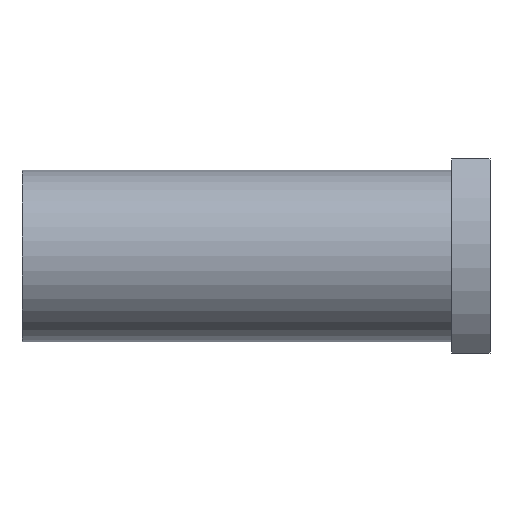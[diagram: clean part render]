
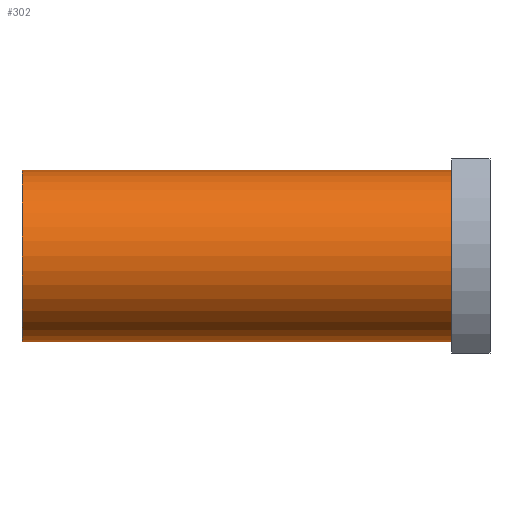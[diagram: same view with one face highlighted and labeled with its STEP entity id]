
A CAD part, front view. The second image highlights one B-rep face of the part: STEP entity #302.
In plain terms, the highlighted cylindrical face has radius 22.5 mm (diameter 45 mm), a full revolution.
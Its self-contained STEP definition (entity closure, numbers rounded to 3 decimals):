
#37=CYLINDRICAL_SURFACE('',#346,22.5);
#60=ORIENTED_EDGE('',*,*,#124,.T.);
#61=ORIENTED_EDGE('',*,*,#125,.F.);
#124=EDGE_CURVE('',#156,#156,#182,.T.);
#125=EDGE_CURVE('',#157,#157,#183,.T.);
#156=VERTEX_POINT('',#508);
#157=VERTEX_POINT('',#510);
#182=CIRCLE('',#347,22.5);
#183=CIRCLE('',#348,22.5);
#205=EDGE_LOOP('',(#60));
#206=EDGE_LOOP('',(#61));
#251=FACE_BOUND('',#205,.T.);
#252=FACE_BOUND('',#206,.T.);
#302=ADVANCED_FACE('',(#251,#252),#37,.T.);
#346=AXIS2_PLACEMENT_3D('',#506,#410,#411);
#347=AXIS2_PLACEMENT_3D('',#507,#412,#413);
#348=AXIS2_PLACEMENT_3D('',#509,#414,#415);
#410=DIRECTION('',(-1.,0.,0.));
#411=DIRECTION('',(0.,0.,1.));
#412=DIRECTION('',(1.,0.,0.));
#413=DIRECTION('',(0.,0.,-1.));
#414=DIRECTION('',(1.,0.,0.));
#415=DIRECTION('',(0.,0.,-1.));
#506=CARTESIAN_POINT('',(61.5,0.,0.));
#507=CARTESIAN_POINT('',(-61.5,0.,0.));
#508=CARTESIAN_POINT('',(-61.5,0.,-22.5));
#509=CARTESIAN_POINT('',(51.5,0.,0.));
#510=CARTESIAN_POINT('',(51.5,0.,-22.5));
